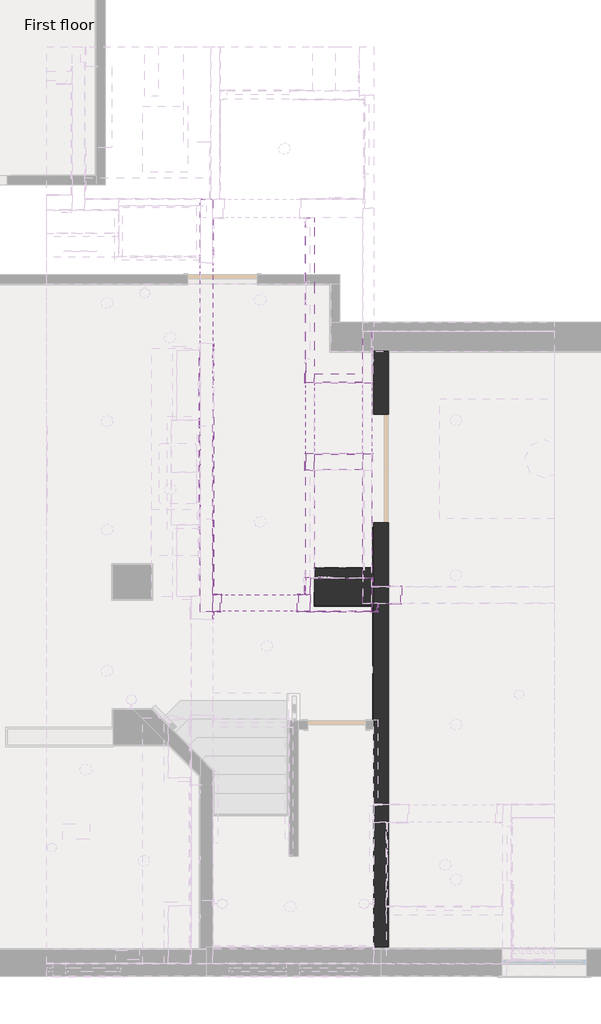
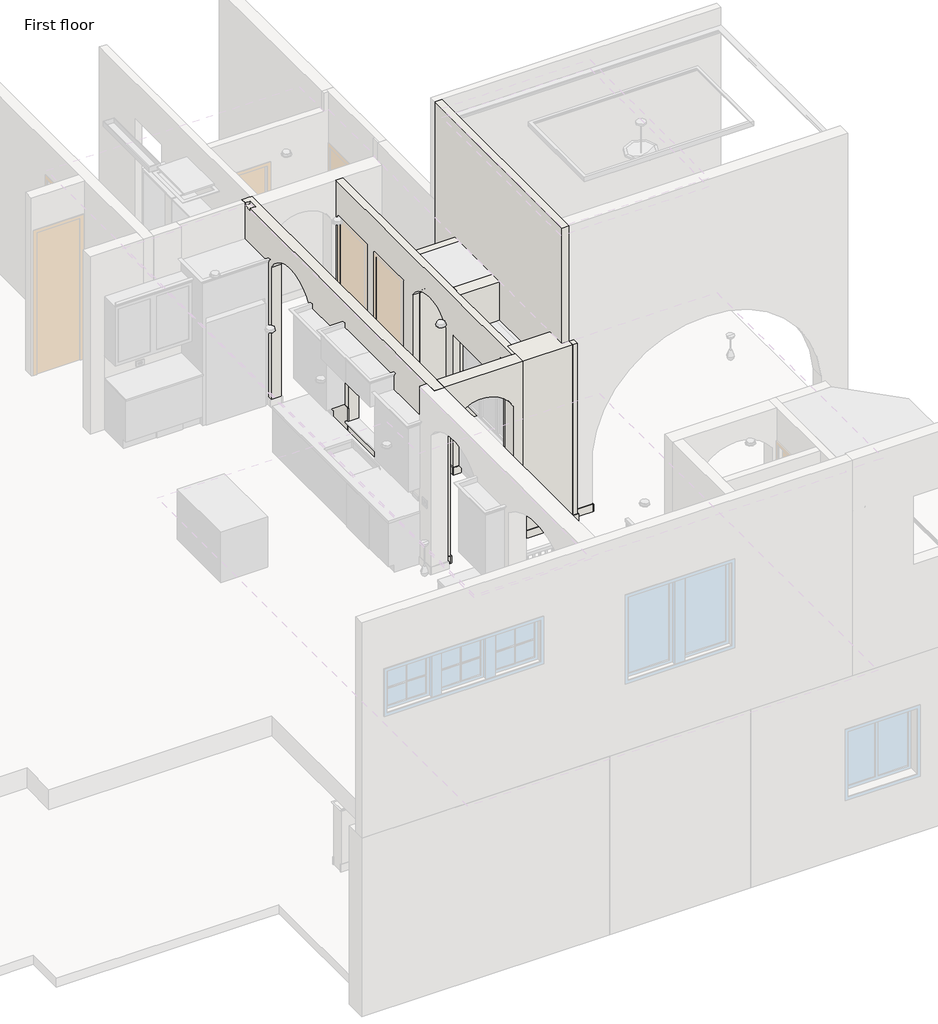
# One storey, part 5 of 14: 38 walls.
"""IFC4 building model written with IfcOpenShell, lengths in millimetres."""

from ifc_helpers import new_model, si_unit, frame, origin, origin_with_axes, place, context, project, spatial, polyline, circle_curve, outline, extrude, faceted_brep, element, save
from ifc_brep_helpers import plane_surface, revolved_surface, advanced_brep

model = new_model("IFC4")

# Units and contexts
model_context = context("Model", 3, world=origin())
ifc_project = project(units=[si_unit("LENGTHUNIT", "METRE", prefix="MILLI")], contexts=[model_context])

# Site, building, storey
site = spatial("IfcSite", under=ifc_project)
building = spatial("IfcBuilding", under=site)
storey = spatial("IfcBuildingStorey", under=building, Name="First floor", Elevation=0.0)

# Walls
placement = place(None, origin())
element("IfcWall", 1, ObjectType="Wall Border_T1", at=placement, inside=storey, context=model_context, shape_type="Brep", body=[
    faceted_brep([(6197.6, 4864.1, 0.0), (6197.6, 4851.4, 0.0), (6197.6, 3365.5, 0.0), (6197.6, 3365.5, 127.0), (6197.6, 4851.4, 127.0), (6197.6, 4864.1, 127.0), (6210.3, 4864.1, 0.0), (6210.3, 4864.1, 127.0), (6210.3, 3365.5, 127.0), (6210.3, 3365.5, 0.0)], [[[0, 1, 2, 3, 4, 5]], [[6, 7, 8, 9]], [[2, 1, 0, 6, 9]], [[5, 4, 3, 8, 7]], [[0, 5, 7, 6]], [[3, 2, 9, 8]]]),
])
element("IfcWall", 2, ObjectType="Wall Border_T1", at=placement, inside=storey, context=model_context, shape_type="Brep", body=[
    faceted_brep([(6197.6, 5892.8, 0.0), (6197.6, 5359.4, 0.0), (6197.6, 5346.7, 0.0), (6197.6, 5346.7, 127.0), (6197.6, 5359.4, 127.0), (6197.6, 5892.8, 127.0), (6210.3, 5892.8, 0.0), (6210.3, 5892.8, 127.0), (6210.3, 5346.7, 127.0), (6210.3, 5346.7, 0.0)], [[[0, 1, 2, 3, 4, 5]], [[6, 7, 8, 9]], [[2, 1, 0, 6, 9]], [[5, 4, 3, 8, 7]], [[0, 5, 7, 6]], [[3, 2, 9, 8]]]),
])
element("IfcWall", 3, ObjectType="Wall Border_T1", at=placement, inside=storey, context=model_context, shape_type="Brep", body=[
    faceted_brep([(4102.1, 8292.9947939, 3251.2), (4102.1, 5003.6947939, 3251.2), (4102.1, 5003.6947939, 3378.2), (4102.1, 8292.9947939, 3378.2), (4114.8, 8292.9947939, 3251.2), (4114.8, 8292.9947939, 3378.2), (4114.8, 5016.3947939, 3378.2), (4114.8, 5003.6947939, 3378.2), (4114.8, 5003.6947939, 3251.2), (4114.8, 5016.3947939, 3251.2)], [[[0, 1, 2, 3]], [[4, 5, 6, 7, 8, 9]], [[1, 0, 4, 9, 8]], [[3, 2, 7, 6, 5]], [[0, 3, 5, 4]], [[2, 1, 8, 7]]]),
])
element("IfcWall", 4, ObjectType="Wall Border_T1", at=placement, inside=storey, context=model_context, shape_type="Brep", body=[
    faceted_brep([(4114.8, 5003.6947939, 3251.2), (4203.7, 5003.6947939, 3251.2), (4216.4, 5003.6947939, 3251.2), (4216.4, 5003.6947939, 3378.2), (4203.7, 5003.6947939, 3378.2), (4114.8, 5003.6947939, 3378.2), (4114.8, 5016.3947939, 3251.2), (4114.8, 5016.3947939, 3378.2), (4216.4, 5016.3947939, 3378.2), (4216.4, 5016.3947939, 3251.2)], [[[0, 1, 2, 3, 4, 5]], [[6, 7, 8, 9]], [[2, 1, 0, 6, 9]], [[5, 4, 3, 8, 7]], [[0, 5, 7, 6]], [[3, 2, 9, 8]]]),
])
element("IfcWall", 5, ObjectType="Wall Border_T1", at=placement, inside=storey, context=model_context, shape_type="Brep", body=[
    faceted_brep([(4203.7, 5003.6947939, 3251.2), (4203.7, 4787.7947939, 3251.2), (4203.7, 4775.0947939, 3251.2), (4203.7, 4775.0947939, 3378.2), (4203.7, 4787.7947939, 3378.2), (4203.7, 5003.6947939, 3378.2), (4216.4, 5003.6947939, 3251.2), (4216.4, 5003.6947939, 3378.2), (4216.4, 4775.0947939, 3378.2), (4216.4, 4775.0947939, 3251.2)], [[[0, 1, 2, 3, 4, 5]], [[6, 7, 8, 9]], [[2, 1, 0, 6, 9]], [[5, 4, 3, 8, 7]], [[0, 5, 7, 6]], [[3, 2, 9, 8]]]),
])
element("IfcWall", 6, ObjectType="Wall Border_T1", at=placement, inside=storey, context=model_context, shape_type="Brep", body=[
    faceted_brep([(4203.7, 4787.7947939, 3251.2), (4102.1, 4787.7947939, 3251.2), (4102.1, 4787.7947939, 3378.2), (4203.7, 4787.7947939, 3378.2), (4203.7, 4775.0947939, 3251.2), (4203.7, 4775.0947939, 3378.2), (4114.8, 4775.0947939, 3378.2), (4102.1, 4775.0947939, 3378.2), (4102.1, 4775.0947939, 3251.2), (4114.8, 4775.0947939, 3251.2)], [[[0, 1, 2, 3]], [[4, 5, 6, 7, 8, 9]], [[1, 0, 4, 9, 8]], [[3, 2, 7, 6, 5]], [[0, 3, 5, 4]], [[2, 1, 8, 7]]]),
])
element("IfcWall", 7, ObjectType="Wall Border_T1", at=placement, inside=storey, context=model_context, shape_type="Brep", body=[
    faceted_brep([(5308.6, 8038.9947939, 3251.2), (5308.6, 7772.2947939, 3251.2), (5308.6, 7772.2947939, 3378.2), (5308.6, 8038.9947939, 3378.2), (5321.3, 8038.9947939, 3251.2), (5321.3, 8038.9947939, 3378.2), (5321.3, 7784.9947939, 3378.2), (5321.3, 7772.2947939, 3378.2), (5321.3, 7772.2947939, 3251.2), (5321.3, 7784.9947939, 3251.2)], [[[0, 1, 2, 3]], [[4, 5, 6, 7, 8, 9]], [[1, 0, 4, 9, 8]], [[3, 2, 7, 6, 5]], [[0, 3, 5, 4]], [[2, 1, 8, 7]]]),
])
element("IfcWall", 8, ObjectType="Wall Border_T1", at=placement, inside=storey, context=model_context, shape_type="Brep", body=[
    faceted_brep([(5321.3, 7772.2947939, 3251.2), (6197.5999991, 7772.2947939, 3251.2), (6197.5999991, 7772.2947939, 3378.2), (5321.3, 7772.2947939, 3378.2), (5321.3, 7784.9947939, 3251.2), (5321.3, 7784.9947939, 3378.2), (6184.8999991, 7784.9947939, 3378.2), (6197.5999991, 7784.9947939, 3378.2), (6197.5999991, 7784.9947939, 3251.2), (6184.8999991, 7784.9947939, 3251.2)], [[[0, 1, 2, 3]], [[4, 5, 6, 7, 8, 9]], [[1, 0, 4, 9, 8]], [[3, 2, 7, 6, 5]], [[0, 3, 5, 4]], [[2, 1, 8, 7]]]),
])
element("IfcWall", 9, ObjectType="Wall Border_T1", at=placement, inside=storey, context=model_context, shape_type="Brep", body=[
    faceted_brep([(5207.0, 5003.6947939, 3251.2), (5219.7, 5003.6947939, 3251.2), (5321.3, 5003.6947939, 3251.2), (5321.3, 5003.6947939, 3378.2), (5219.7, 5003.6947939, 3378.2), (5207.0, 5003.6947939, 3378.2), (5207.0, 5016.3947939, 3251.2), (5207.0, 5016.3947939, 3378.2), (5308.6, 5016.3947939, 3378.2), (5321.3, 5016.3947939, 3378.2), (5321.3, 5016.3947939, 3251.2), (5308.6, 5016.3947939, 3251.2)], [[[0, 1, 2, 3, 4, 5]], [[6, 7, 8, 9, 10, 11]], [[2, 1, 0, 6, 11, 10]], [[5, 4, 3, 9, 8, 7]], [[3, 2, 10, 9]], [[0, 5, 7, 6]]]),
])
element("IfcWall", 10, ObjectType="Wall Border_T1", at=placement, inside=storey, context=model_context, shape_type="Brep", body=[
    faceted_brep([(5321.3, 5016.3947939, 3251.2), (5321.3, 5219.5947939, 3251.2), (5321.3, 5232.2947939, 3251.2), (5321.3, 5232.2947939, 3378.2), (5321.3, 5219.5947939, 3378.2), (5321.3, 5016.3947939, 3378.2), (5308.6, 5016.3947939, 3251.2), (5308.6, 5016.3947939, 3378.2), (5308.6, 5232.2947939, 3378.2), (5308.6, 5232.2947939, 3251.2)], [[[0, 1, 2, 3, 4, 5]], [[6, 7, 8, 9]], [[2, 1, 0, 6, 9]], [[5, 4, 3, 8, 7]], [[0, 5, 7, 6]], [[3, 2, 9, 8]]]),
])
element("IfcWall", 11, ObjectType="Wall Border_T1", at=placement, inside=storey, context=model_context, shape_type="Brep", body=[
    faceted_brep([(5207.0, 5003.6947939, 3251.2), (5207.0, 4775.0947939, 3251.2), (5207.0, 4775.0947939, 3378.2), (5207.0, 5003.6947939, 3378.2), (5219.7, 5003.6947939, 3251.2), (5219.7, 5003.6947939, 3378.2), (5219.7, 4787.7947939, 3378.2), (5219.7, 4775.0947939, 3378.2), (5219.7, 4775.0947939, 3251.2), (5219.7, 4787.7947939, 3251.2)], [[[0, 1, 2, 3]], [[4, 5, 6, 7, 8, 9]], [[1, 0, 4, 9, 8]], [[3, 2, 7, 6, 5]], [[0, 3, 5, 4]], [[2, 1, 8, 7]]]),
])
element("IfcWall", 12, ObjectType="Wall Border_T1", at=placement, inside=storey, context=model_context, shape_type="Brep", body=[
    faceted_brep([(5219.7, 4775.0947939, 3251.2), (6273.7999991, 4775.0947939, 3251.2), (6273.7999991, 4775.0947939, 3378.2), (5219.7, 4775.0947939, 3378.2), (5219.7, 4787.7947939, 3251.2), (5219.7, 4787.7947939, 3378.2), (6261.0999991, 4787.7947939, 3378.2), (6273.7999991, 4787.7947939, 3378.2), (6273.7999991, 4787.7947939, 3251.2), (6261.0999991, 4787.7947939, 3251.2)], [[[0, 1, 2, 3]], [[4, 5, 6, 7, 8, 9]], [[1, 0, 4, 9, 8]], [[3, 2, 7, 6, 5]], [[0, 3, 5, 4]], [[2, 1, 8, 7]]]),
])
element("IfcWall", 13, ObjectType="Wall Border_T1", at=placement, inside=storey, context=model_context, shape_type="Brep", body=[
    faceted_brep([(6273.7999991, 4787.7947939, 3251.2), (6273.7999991, 4876.8001027, 3251.2), (6273.7999991, 4889.5001027, 3251.2), (6273.7999991, 4889.5001027, 3378.2), (6273.7999991, 4876.8001027, 3378.2), (6273.7999991, 4787.7947939, 3378.2), (6261.0999991, 4787.7947939, 3251.2), (6261.0999991, 4787.7947939, 3378.2), (6261.0999991, 4889.5001027, 3378.2), (6261.0999991, 4889.5001027, 3251.2)], [[[0, 1, 2, 3, 4, 5]], [[6, 7, 8, 9]], [[2, 1, 0, 6, 9]], [[5, 4, 3, 8, 7]], [[0, 5, 7, 6]], [[3, 2, 9, 8]]]),
])
element("IfcWall", 14, ObjectType="Wall Border_T1", at=placement, inside=storey, context=model_context, shape_type="SweptSolid", body=[
    extrude(outline(polyline([(6566.0527866, 4876.8001027), (6273.7999991, 4876.8001027), (6273.7999991, 4889.5001027), (6566.0527866, 4889.5001027), (6566.0527866, 4876.8001027)])), frame((0.0, 0.0, 3251.2), z_axis=(0.0, 0.0, 1.0), x_axis=(1.0, 0.0, 0.0)), (0.0, 0.0, 1.0), 127.0),
])
element("IfcWall", 15, ObjectType="Wall Border_T1", at=placement, inside=storey, context=model_context, shape_type="SweptSolid", body=[
    extrude(outline(polyline([(6184.8999991, 5118.1001027), (6566.0527866, 5118.1001027), (6566.0527866, 5105.4001027), (6184.8999991, 5105.4001027), (6184.8999991, 5118.1001027)])), frame((0.0, 0.0, 3251.2), z_axis=(0.0, 0.0, 1.0), x_axis=(1.0, 0.0, 0.0)), (0.0, 0.0, 1.0), 127.0),
])
element("IfcWall", 16, ObjectType="Wall Border_T1", at=placement, inside=storey, context=model_context, shape_type="Brep", body=[
    faceted_brep([(6197.5999991, 5118.1001027, 3251.2), (6197.5999991, 5232.2947939, 3251.2), (6197.5999991, 5232.2947939, 3378.2), (6197.5999991, 5118.1001027, 3378.2), (6184.8999991, 5118.1001027, 3251.2), (6184.8999991, 5118.1001027, 3378.2), (6184.8999991, 5219.5947939, 3378.2), (6184.8999991, 5232.2947939, 3378.2), (6184.8999991, 5232.2947939, 3251.2), (6184.8999991, 5219.5947939, 3251.2)], [[[0, 1, 2, 3]], [[4, 5, 6, 7, 8, 9]], [[1, 0, 4, 9, 8]], [[3, 2, 7, 6, 5]], [[0, 3, 5, 4]], [[2, 1, 8, 7]]]),
])
element("IfcWall", 17, ObjectType="Wall Border_T1", at=placement, inside=storey, context=model_context, shape_type="SweptSolid", body=[
    extrude(outline(polyline([(6019.8, 5232.2947939), (6184.8999991, 5232.2947939), (6184.8999991, 5219.5947939), (6019.8, 5219.5947939), (6019.8, 5232.2947939)])), frame((0.0, 0.0, 3251.2), z_axis=(0.0, 0.0, 1.0), x_axis=(1.0, 0.0, 0.0)), (0.0, 0.0, 1.0), 127.0),
])
element("IfcWall", 18, ObjectType="Wall Border_T1", at=placement, inside=storey, context=model_context, shape_type="Brep", body=[
    faceted_brep([(5448.3, 6641.9947939, 3251.2), (5321.3, 6641.9947939, 3251.2), (5308.6, 6641.9947939, 3251.2), (5308.6, 6641.9947939, 3378.2), (5321.3, 6641.9947939, 3378.2), (5448.3, 6641.9947939, 3378.2), (5448.3, 6629.2947939, 3251.2), (5448.3, 6629.2947939, 3378.2), (5308.6, 6629.2947939, 3378.2), (5308.6, 6629.2947939, 3251.2)], [[[0, 1, 2, 3, 4, 5]], [[6, 7, 8, 9]], [[2, 1, 0, 6, 9]], [[5, 4, 3, 8, 7]], [[0, 5, 7, 6]], [[3, 2, 9, 8]]]),
])
element("IfcWall", 19, ObjectType="Wall Border_T1", at=placement, inside=storey, context=model_context, shape_type="Brep", body=[
    faceted_brep([(5321.3, 6641.9947939, 3251.2), (5321.3, 6845.1947939, 3251.2), (5321.3, 6857.8947939, 3251.2), (5321.3, 6857.8947939, 3378.2), (5321.3, 6845.1947939, 3378.2), (5321.3, 6641.9947939, 3378.2), (5308.6, 6641.9947939, 3251.2), (5308.6, 6641.9947939, 3378.2), (5308.6, 6857.8947939, 3378.2), (5308.6, 6857.8947939, 3251.2)], [[[0, 1, 2, 3, 4, 5]], [[6, 7, 8, 9]], [[2, 1, 0, 6, 9]], [[5, 4, 3, 8, 7]], [[0, 5, 7, 6]], [[3, 2, 9, 8]]]),
])
element("IfcWall", 20, ObjectType="Wall Border_T1", at=placement, inside=storey, context=model_context, shape_type="Brep", body=[
    faceted_brep([(5321.3, 6845.1947939, 3251.2), (6184.8999991, 6845.1947939, 3251.2), (6197.5999991, 6845.1947939, 3251.2), (6197.5999991, 6845.1947939, 3378.2), (6184.8999991, 6845.1947939, 3378.2), (5321.3, 6845.1947939, 3378.2), (5321.3, 6857.8947939, 3251.2), (5321.3, 6857.8947939, 3378.2), (6197.5999991, 6857.8947939, 3378.2), (6197.5999991, 6857.8947939, 3251.2)], [[[0, 1, 2, 3, 4, 5]], [[6, 7, 8, 9]], [[2, 1, 0, 6, 9]], [[5, 4, 3, 8, 7]], [[0, 5, 7, 6]], [[3, 2, 9, 8]]]),
])
element("IfcWall", 21, ObjectType="Wall Border_T1", at=placement, inside=storey, context=model_context, shape_type="SweptSolid", body=[
    extrude(outline(polyline([(5448.3, 5219.5947939), (5321.3, 5219.5947939), (5321.3, 5232.2947939), (5448.3, 5232.2947939), (5448.3, 5219.5947939)])), frame((0.0, 0.0, 3251.2), z_axis=(0.0, 0.0, 1.0), x_axis=(1.0, 0.0, 0.0)), (0.0, 0.0, 1.0), 127.0),
])
element("IfcWall", 22, ObjectType="Wall Border_T1", at=placement, inside=storey, context=model_context, shape_type="SweptSolid", body=[
    extrude(outline(polyline([(8204.0947939, 4165.6), (7188.0947939, 4165.6), (7188.0947939, 4292.6), (7213.4947939, 4292.6), (7213.4947939, 4318.0), (7188.0947939, 4318.0), (7188.0947939, 4546.6), (8204.0947939, 4546.6), (8204.0947939, 4165.6)])), frame((3924.3, 0.0, 0.0), z_axis=(1.0, 0.0, 0.0), x_axis=(0.0, 1.0, 0.0)), (0.0, 0.0, 1.0), 12.7),
])
element("IfcWall", 23, ObjectType="Wall Border_T1", at=placement, inside=storey, context=model_context, shape_type="SweptSolid", body=[
    extrude(outline(polyline([(3924.3, 6019.6947939), (3924.3, 7188.0947939), (3937.0, 7188.0947939), (3937.0, 6019.6947939), (3924.3, 6019.6947939)])), frame((0.0, 0.0, 4165.6), z_axis=(0.0, 0.0, 1.0), x_axis=(1.0, 0.0, 0.0)), (0.0, 0.0, 1.0), 127.0),
])
element("IfcWall", 24, ObjectType="Wall Border_T1", at=placement, inside=storey, context=model_context, shape_type="Brep", body=[
    faceted_brep([(6197.6, 4864.1, 0.0), (5441.95, 4864.1, 0.0), (5429.25, 4864.1, 0.0), (5429.25, 4864.1, 127.0), (5441.95, 4864.1, 127.0), (6197.6, 4864.1, 127.0), (6197.6, 4851.4, 0.0), (6197.6, 4851.4, 127.0), (5429.25, 4851.4, 127.0), (5429.25, 4851.4, 0.0)], [[[0, 1, 2, 3, 4, 5]], [[6, 7, 8, 9]], [[2, 1, 0, 6, 9]], [[5, 4, 3, 8, 7]], [[3, 2, 9, 8]], [[0, 5, 7, 6]]]),
])
element("IfcWall", 25, ObjectType="Wall Border_T1", at=placement, inside=storey, context=model_context, shape_type="Brep", body=[
    faceted_brep([(5441.95, 4864.1, 0.0), (5441.95, 5346.7, 0.0), (5441.95, 5359.4, 0.0), (5441.95, 5359.4, 127.0), (5441.95, 5346.7, 127.0), (5441.95, 4864.1, 127.0), (5429.25, 4864.1, 0.0), (5429.25, 4864.1, 127.0), (5429.25, 5359.4, 127.0), (5429.25, 5359.4, 0.0)], [[[0, 1, 2, 3, 4, 5]], [[6, 7, 8, 9]], [[2, 1, 0, 6, 9]], [[5, 4, 3, 8, 7]], [[0, 5, 7, 6]], [[3, 2, 9, 8]]]),
])
element("IfcWall", 26, ObjectType="Wall Border_T1", at=placement, inside=storey, context=model_context, shape_type="SweptSolid", body=[
    extrude(outline(polyline([(5441.95, 5359.4), (6197.6, 5359.4), (6197.6, 5346.7), (5441.95, 5346.7), (5441.95, 5359.4)])), origin_with_axes(), (0.0, 0.0, 1.0), 127.0),
])
element("IfcWall", 27, ObjectType="Wall Border_T1", at=placement, inside=storey, context=model_context, shape_type="SweptSolid", body=[
    extrude(outline(polyline([(4114.8, 4775.0947939), (4114.8, 4686.1947939), (4102.1, 4686.1947939), (4102.1, 4775.0947939), (4114.8, 4775.0947939)])), frame((0.0, 0.0, 3251.2), z_axis=(0.0, 0.0, 1.0), x_axis=(1.0, 0.0, 0.0)), (0.0, 0.0, 1.0), 127.0),
])
element("IfcWall", 28, ObjectType="Wall Border_T1", at=placement, inside=storey, context=model_context, shape_type="Brep", body=[
    faceted_brep([(6578.7527866, 4876.8001027, 3251.2), (6578.7527866, 5118.1001027, 3251.2), (6578.7527866, 5118.1001027, 3378.2), (6578.7527866, 4876.8001027, 3378.2), (6566.0527866, 4876.8001027, 3251.2), (6566.0527866, 4876.8001027, 3378.2), (6566.0527866, 4889.5001027, 3378.2), (6566.0527866, 5105.4001027, 3378.2), (6566.0527866, 5118.1001027, 3378.2), (6566.0527866, 5118.1001027, 3251.2), (6566.0527866, 5105.4001027, 3251.2), (6566.0527866, 4889.5001027, 3251.2)], [[[0, 1, 2, 3]], [[4, 5, 6, 7, 8, 9, 10, 11]], [[1, 0, 4, 11, 10, 9]], [[2, 1, 9, 8]], [[3, 2, 8, 7, 6, 5]], [[0, 3, 5, 4]]]),
])
element("IfcWall", 29, ObjectType="Wall_1'7\"", at=placement, inside=storey, context=model_context, shape_type="Brep", body=[
    faceted_brep([(5441.95, 4864.1, 0.0), (6210.3, 4864.1, 0.0), (6210.3, 4864.1, 2565.4), (5441.95, 4864.1, 2565.4), (5441.95, 4864.1, 127.0), (5441.95, 5346.7, 0.0), (5441.95, 5346.7, 2565.4), (6210.3, 5346.7, 2565.4), (6210.3, 5346.7, 0.0)], [[[0, 1, 2, 3, 4]], [[5, 6, 7, 8]], [[1, 0, 5, 8]], [[3, 2, 7, 6]], [[2, 1, 8, 7]], [[0, 4, 3, 6, 5]]]),
])
element("IfcWall", 30, ObjectType="Wall_17\"", at=placement, inside=storey, context=model_context, shape_type="Brep", body=[
    faceted_brep([(6184.8999991, 5219.5947939, 6299.2), (6184.8999991, 5219.5947939, 5638.8), (6184.8999991, 5219.5947939, 3251.2), (5378.45, 5219.5947939, 3251.2), (5378.45, 5219.5947939, 5638.8), (5378.45, 5219.5947939, 6299.2), (5435.6, 5219.5947939, 6299.2), (6070.5999991, 5219.5947939, 6299.2), (6184.8999991, 4787.7947939, 3251.2), (6184.8999991, 4787.7947939, 6299.2), (5378.45, 4787.7947939, 6299.2), (5378.45, 4787.7947939, 3251.2), (6184.8999991, 5118.1001027, 3251.2), (6184.8999991, 5105.4001027, 3251.2), (6184.8999991, 4889.5001027, 3251.2), (5378.45, 5003.6947939, 3251.2), (5378.45, 5003.6947939, 6299.2), (6184.8999991, 4889.5001027, 6299.2)], [[[0, 1, 2, 3, 4, 5, 6, 7]], [[8, 9, 10, 11]], [[3, 2, 12, 13, 14, 8, 11, 15]], [[0, 7, 6, 5, 16, 10, 9, 17]], [[3, 15, 11, 10, 16, 5, 4]], [[0, 17, 9, 8, 14, 13, 12, 2, 1]]]),
])
element("IfcWall", 31, ObjectType="Wall_4.5\"", at=placement, inside=storey, context=model_context, shape_type="AdvancedBrep", body=[
    advanced_brep(
    [(5435.6, 9943.9947939, 6299.2), (5435.6, 7899.2947939, 6299.2), (5435.6, 7784.9947939, 6299.2), (5435.6, 6845.1947939, 6299.2), (5435.6, 6641.9947939, 6299.2), (5435.6, 5219.5947939, 6299.2), (5435.6, 5219.5947939, 5638.8), (5435.6, 6641.9947939, 5638.8), (5435.6, 6641.9947939, 3251.2), (5435.6, 6845.1947939, 3251.2), (5435.6, 6845.1947939, 5638.8), (5435.6, 7784.9947939, 5638.8), (5435.6, 7784.9947939, 3251.2), (5435.6, 7899.2947939, 3251.2), (5435.6, 8089.7947939, 3251.2), (5435.6, 8089.7947939, 5689.6), (5435.6, 8800.9947939, 5689.6), (5435.6, 8800.9947939, 3251.2), (5435.6, 9105.7947939, 3251.2), (5435.6, 9105.7947939, 5689.6), (5435.6, 9816.9947939, 5689.6), (5435.6, 9816.9947939, 3251.2), (5435.6, 9943.9947939, 3251.2), (5321.3, 5003.6947939, 6299.2), (5321.3, 9943.9947939, 6299.2), (5321.3, 9943.9947939, 3251.2), (5321.3, 9816.9947939, 3251.2), (5321.3, 9816.9947939, 5689.6), (5321.3, 9105.7947939, 5689.6), (5321.3, 9105.7947939, 3251.2), (5321.3, 8800.9947939, 3251.2), (5321.3, 8800.9947939, 5689.6), (5321.3, 8089.7947939, 5689.6), (5321.3, 8089.7947939, 3251.2), (5321.3, 7784.9947939, 3251.2), (5321.3, 7784.9947939, 5638.8), (5321.3, 6845.1947939, 5638.8), (5321.3, 6845.1947939, 3251.2), (5321.3, 6641.9947939, 3251.2), (5321.3, 6641.9947939, 5638.8), (5321.3, 5219.5947939, 5638.8), (5321.3, 5219.5947939, 3251.2), (5321.3, 5016.3947939, 3251.2), (5321.3, 5003.6947939, 3251.2), (5321.3, 5003.6947939, 3378.2), (5378.45, 5219.5947939, 3251.2), (5378.45, 5003.6947939, 3251.2), (5378.45, 5003.6947939, 6299.2), (5378.45, 5219.5947939, 6299.2), (5378.45, 5219.5947939, 5638.8)],
    [
        (0, 1),
        (1, 2),
        (2, 3),
        (3, 4),
        (4, 5),
        (5, 6),
        (6, 7),
        (7, 8),
        (8, 9),
        (9, 10),
        (10, 11, circle_curve(frame((5435.6, 7315.0947939, 5331.1425), z_axis=(-1.0, 0.0, 0.0), x_axis=(0.0, -1.0, 0.0)), 561.6575)),
        (11, 12),
        (12, 13),
        (13, 14),
        (14, 15),
        (15, 16),
        (16, 17),
        (17, 18),
        (18, 19),
        (19, 20),
        (20, 21),
        (21, 22),
        (22, 0),
        (23, 24),
        (24, 25),
        (25, 26),
        (26, 27),
        (27, 28),
        (28, 29),
        (29, 30),
        (30, 31),
        (31, 32),
        (32, 33),
        (33, 34),
        (34, 35),
        (35, 36, circle_curve(frame((5321.3, 7315.0947939, 5331.1425), z_axis=(1.0, 0.0, 0.0), x_axis=(0.0, -1.0, 0.0)), 561.6575)),
        (36, 37),
        (37, 38),
        (38, 39),
        (39, 40),
        (40, 41),
        (41, 42),
        (42, 43),
        (43, 44),
        (44, 23),
        (25, 22),
        (21, 26),
        (45, 46),
        (46, 43),
        (41, 45),
        (29, 18),
        (17, 30),
        (33, 14),
        (12, 34),
        (37, 9),
        (8, 38),
        (0, 24),
        (23, 47),
        (47, 48),
        (48, 5),
        (48, 49),
        (49, 6),
        (47, 46),
        (45, 49),
        (28, 19),
        (27, 20),
        (32, 15),
        (31, 16),
        (11, 35),
        (36, 10),
        (49, 40),
        (39, 7),
    ],
    [
        plane_surface(frame((5435.6, 5007.0757148, 3251.2), z_axis=(1.0, 0.0, 0.0), x_axis=(0.0, 1.0, 0.0))),
        plane_surface(frame((5321.3, 5007.0757148, 3251.2), z_axis=(-1.0, 0.0, 0.0), x_axis=(0.0, -1.0, 0.0))),
        plane_surface(frame((5435.6, 4895.7447939, 3251.2), z_axis=(0.0, 0.0, -1.0), x_axis=(-1.0, 0.0, 0.0))),
        plane_surface(frame((5435.6, 10064.6447939, 6299.2), z_axis=(0.0, 0.0, 1.0), x_axis=(-1.0, 0.0, 0.0))),
        plane_surface(frame((6070.6, 9943.9947939, 2908.3), z_axis=(0.0, 1.0, 0.0), x_axis=(1.0, 0.0, 0.0))),
        plane_surface(frame((7962.9, 5219.5947939, 3098.8), z_axis=(0.0, -1.0, 0.0), x_axis=(1.0, 0.0, 0.0))),
        plane_surface(frame((5378.45, 5111.6447939, 3098.8), z_axis=(1.0, 0.0, 0.0), x_axis=(0.0, 1.0, 0.0))),
        plane_surface(frame((2794.0, 5003.6947939, 3098.8), z_axis=(0.0, -1.0, 0.0), x_axis=(1.0, 0.0, 0.0))),
        plane_surface(frame((5435.6, 9105.7947939, 3251.2), z_axis=(0.0, 1.0, 0.0), x_axis=(-1.0, 0.0, 0.0))),
        plane_surface(frame((5435.6, 9105.7947939, 5689.6), z_axis=(0.0, 0.0, -1.0), x_axis=(-1.0, 0.0, 0.0))),
        plane_surface(frame((5435.6, 9816.9947939, 5689.6), z_axis=(0.0, -1.0, 0.0), x_axis=(-1.0, 0.0, 0.0))),
        plane_surface(frame((5435.6, 8089.7947939, 3251.2), z_axis=(0.0, 1.0, 0.0), x_axis=(-1.0, 0.0, 0.0))),
        plane_surface(frame((5435.6, 8089.7947939, 5689.6), z_axis=(0.0, 0.0, -1.0), x_axis=(-1.0, 0.0, 0.0))),
        plane_surface(frame((5435.6, 8800.9947939, 5689.6), z_axis=(0.0, -1.0, 0.0), x_axis=(-1.0, 0.0, 0.0))),
        plane_surface(frame((5435.6, 7784.9947939, 3251.2), z_axis=(0.0, -1.0, 0.0), x_axis=(-1.0, 0.0, 0.0))),
        plane_surface(frame((5435.6, 6845.1947939, 5638.8), z_axis=(0.0, 1.0, 0.0), x_axis=(-1.0, 0.0, 0.0))),
        revolved_surface(polyline([(5435.6, 6753.4372938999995, 5331.1425), (5321.3, 6753.4372938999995, 5331.1425)]), (5321.3, 7315.0947939, 5331.1425), (1.0, 0.0, 0.0)),
        plane_surface(frame((5575.3, 6641.9947939, 5638.8), z_axis=(0.0, 0.0, -1.0), x_axis=(-1.0, 0.0, 0.0))),
        plane_surface(frame((5575.3, 5219.5947939, 5638.8), z_axis=(0.0, 1.0, 0.0), x_axis=(-1.0, 0.0, 0.0))),
        plane_surface(frame((5575.3, 6641.9947939, 3251.2), z_axis=(0.0, -1.0, 0.0), x_axis=(-1.0, 0.0, 0.0))),
    ],
    [
        (0, [[1, 2, 3, 4, 5, 6, 7, 8, 9, 10, 11, 12, 13, 14, 15, 16, 17, 18, 19, 20, 21, 22, 23]]),
        (1, [[24, 25, 26, 27, 28, 29, 30, 31, 32, 33, 34, 35, 36, 37, 38, 39, 40, 41, 42, 43, 44, 45]]),
        (2, [[46, -22, 47, -26]]),
        (2, [[48, 49, -43, -42, 50]]),
        (2, [[51, -18, 52, -30]]),
        (2, [[53, -14, -13, 54, -34]]),
        (2, [[55, -9, 56, -38]]),
        (3, [[-5, -4, -3, -2, -1, 57, -24, 58, 59, 60]]),
        (4, [[-23, -46, -25, -57]]),
        (5, [[-60, 61, 62, -6]]),
        (6, [[-59, 63, -48, 64, -61]]),
        (7, [[-45, -44, -49, -63, -58]]),
        (8, [[-19, -51, -29, 65]]),
        (9, [[-20, -65, -28, 66]]),
        (10, [[-21, -66, -27, -47]]),
        (11, [[-15, -53, -33, 67]]),
        (12, [[-16, -67, -32, 68]]),
        (13, [[-17, -68, -31, -52]]),
        (14, [[69, -35, -54, -12]]),
        (15, [[70, -10, -55, -37]]),
        (16, [[-69, -11, -70, -36]]),
        (17, [[71, -40, 72, -7, -62]]),
        (18, [[-71, -64, -50, -41]]),
        (19, [[-72, -39, -56, -8]]),
    ],
),
])
element("IfcWall", 32, ObjectType="Wall_4.5\"", at=placement, inside=storey, context=model_context, shape_type="AdvancedBrep", body=[
    advanced_brep(
    [(6184.8999991, 8458.2, 8280.4), (6184.8999991, 5105.4001027, 8280.4), (6184.8999991, 4889.5001027, 8280.4), (6184.8999991, 4889.5001027, 6299.2), (6184.8999991, 5219.5947939, 6299.2), (6184.8999991, 5219.5947939, 5638.8), (6184.8999991, 6641.9947939, 5638.8), (6184.8999991, 6641.9947939, 3251.2), (6184.8999991, 6845.1947939, 3251.2), (6184.8999991, 6845.1947939, 5638.8), (6184.8999991, 7784.9947939, 5638.8), (6184.8999991, 7784.9947939, 3251.2), (6184.8999991, 8458.2, 3251.2), (6070.5999991, 4889.5001027, 8280.4), (6070.5999991, 8458.2, 8280.4), (6070.5999991, 8458.2, 6604.0), (6070.5999991, 8458.2, 3251.2), (6070.5999991, 7899.2947939, 3251.2), (6070.5999991, 7784.9947939, 3251.2), (6070.5999991, 7784.9947939, 5638.8), (6070.5999991, 6845.1947939, 5638.8), (6070.5999991, 6845.1947939, 3251.2), (6070.5999991, 6641.9947939, 3251.2), (6070.5999991, 6641.9947939, 5638.8), (6070.5999991, 5219.5947939, 5638.8), (6070.5999991, 5219.5947939, 6299.2), (6070.5999991, 4889.5001027, 6299.2)],
    [
        (0, 1),
        (1, 2),
        (2, 3),
        (3, 4),
        (4, 5),
        (5, 6),
        (6, 7),
        (7, 8),
        (8, 9),
        (9, 10, circle_curve(frame((6184.8999991, 7315.0947939, 5331.1425), z_axis=(-1.0, 0.0, 0.0), x_axis=(0.0, -1.0, 0.0)), 561.6575)),
        (10, 11),
        (11, 12),
        (12, 0),
        (13, 14),
        (14, 15),
        (15, 16),
        (16, 17),
        (17, 18),
        (18, 19),
        (19, 20, circle_curve(frame((6070.5999991, 7315.0947939, 5331.1425), z_axis=(1.0, 0.0, 0.0), x_axis=(0.0, -1.0, 0.0)), 561.6575)),
        (20, 21),
        (21, 22),
        (22, 23),
        (23, 24),
        (24, 25),
        (25, 26),
        (26, 13),
        (16, 12),
        (11, 18),
        (7, 22),
        (21, 8),
        (0, 14),
        (13, 2),
        (25, 4),
        (3, 26),
        (24, 5),
        (23, 6),
        (10, 19),
        (20, 9),
    ],
    [
        plane_surface(frame((6184.8999991, 4893.690132, 3251.2), z_axis=(1.0, 0.0, 0.0), x_axis=(0.0, 1.0, 0.0))),
        plane_surface(frame((6070.5999991, 4893.690132, 3251.2), z_axis=(-1.0, 0.0, 0.0), x_axis=(0.0, -1.0, 0.0))),
        plane_surface(frame((6184.8999991, 4997.4501027, 3251.2), z_axis=(0.0, 0.0, -1.0), x_axis=(-1.0, 0.0, 0.0))),
        plane_surface(frame((6184.8999991, 8515.35, 8280.4), z_axis=(0.0, 0.0, 1.0), x_axis=(-1.0, 0.0, 0.0))),
        plane_surface(frame((10654.7717488, 8458.2, 2908.3), z_axis=(0.0, 1.0, 0.0), x_axis=(1.0, 0.0, 0.0))),
        plane_surface(frame((6184.8999991, 4997.4501027, 6299.2), z_axis=(0.0, 0.0, -1.0), x_axis=(1.0, 0.0, 0.0))),
        plane_surface(frame((5923.2069093, 5219.5947939, 3251.2), z_axis=(0.0, -1.0, 0.0), x_axis=(-1.0, 0.0, 0.0))),
        plane_surface(frame((6184.8999991, 4889.5001027, 3251.2), z_axis=(0.0, -1.0, 0.0), x_axis=(1.0, 0.0, 0.0))),
        plane_surface(frame((6070.5999991, 5219.5947939, 5638.8), z_axis=(0.0, 0.0, -1.0), x_axis=(1.0, 0.0, 0.0))),
        plane_surface(frame((6070.5999991, 6641.9947939, 5638.8), z_axis=(0.0, -1.0, 0.0), x_axis=(1.0, 0.0, 0.0))),
        plane_surface(frame((6070.5999991, 7784.9947939, 5638.8), z_axis=(0.0, -1.0, 0.0), x_axis=(1.0, 0.0, 0.0))),
        plane_surface(frame((6070.5999991, 6845.1947939, 3251.2), z_axis=(0.0, 1.0, 0.0), x_axis=(1.0, 0.0, 0.0))),
        revolved_surface(polyline([(6070.5999991, 6753.4372938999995, 5331.1425), (6184.8999991, 6753.4372938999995, 5331.1425)]), (6184.8999991, 7315.0947939, 5331.1425), (-1.0, 0.0, 0.0)),
    ],
    [
        (0, [[1, 2, 3, 4, 5, 6, 7, 8, 9, 10, 11, 12, 13]]),
        (1, [[14, 15, 16, 17, 18, 19, 20, 21, 22, 23, 24, 25, 26, 27]]),
        (2, [[28, -12, 29, -18, -17]]),
        (2, [[30, -22, 31, -8]]),
        (3, [[-2, -1, 32, -14, 33]]),
        (4, [[-13, -28, -16, -15, -32]]),
        (5, [[-26, 34, -4, 35]]),
        (6, [[-34, -25, 36, -5]]),
        (7, [[-33, -27, -35, -3]]),
        (8, [[37, -6, -36, -24]]),
        (9, [[-37, -23, -30, -7]]),
        (10, [[38, -19, -29, -11]]),
        (11, [[39, -9, -31, -21]]),
        (12, [[-38, -10, -39, -20]]),
    ],
),
])
element("IfcWall", 33, ObjectType="Wall_4.5\"", at=placement, inside=storey, context=model_context, shape_type="Brep", body=[
    faceted_brep([(5435.6, 7784.9947939, 3251.2), (6070.5999991, 7784.9947939, 3251.2), (6070.5999991, 7784.9947939, 5638.8), (6070.5999991, 7784.9947939, 6299.2), (5435.6, 7784.9947939, 6299.2), (5435.6, 7784.9947939, 5638.8), (5435.6, 7899.2947939, 3251.2), (5435.6, 7899.2947939, 6299.2), (6070.5999991, 7899.2947939, 6299.2), (6070.5999991, 7899.2947939, 3251.2)], [[[0, 1, 2, 3, 4, 5]], [[6, 7, 8, 9]], [[1, 0, 6, 9]], [[4, 3, 8, 7]], [[0, 5, 4, 7, 6]], [[3, 2, 1, 9, 8]]]),
])
element("IfcWall", 34, ObjectType="Wall_4.5\"", at=placement, inside=storey, context=model_context, shape_type="Brep", body=[
    faceted_brep([(6184.8999991, 4787.7947939, 3251.2), (6261.0999991, 4787.7947939, 3251.2), (6261.0999991, 4787.7947939, 3378.2), (6261.0999991, 4787.7947939, 6299.2), (6184.8999991, 4787.7947939, 6299.2), (6184.8999991, 4889.5001027, 3251.2), (6261.0999991, 4889.5001027, 3251.2), (6261.0999991, 4889.5001027, 6299.2), (6184.8999991, 4889.5001027, 6299.2), (6261.0999991, 4889.5001027, 3378.2)], [[[0, 1, 2, 3, 4]], [[1, 0, 5, 6]], [[4, 3, 7, 8]], [[0, 4, 8, 5]], [[6, 5, 8, 7, 9]], [[3, 2, 1, 6, 9, 7]]]),
])
element("IfcWall", 35, ObjectType="Wall_6.5\"", at=placement, inside=storey, context=model_context, shape_type="AdvancedBrep", body=[
    advanced_brep(
    [(3937.0, 4781.55, 3251.2), (3937.0, 4781.55, 6299.2), (3937.0, 4984.6447939, 6299.2), (3937.0, 9943.9947939, 6299.2), (3937.0, 9943.9947939, 6261.1), (3937.0, 10096.5, 6261.1), (3937.0, 10096.5, 6299.2), (3937.0, 10185.2947939, 6299.2), (3937.0, 10185.2947939, 3251.2), (3937.0, 10096.5, 3251.2), (3937.0, 9359.7947939, 3251.2), (3937.0, 9359.7947939, 5638.8), (3937.0, 8292.9947939, 5638.8), (3937.0, 8292.9947939, 3251.2), (3937.0, 4984.6447939, 3251.2), (3937.0, 7188.0947939, 5054.6), (3937.0, 6019.6947939, 5054.6), (3937.0, 6019.6947939, 4318.0), (3937.0, 5994.2947939, 4318.0), (3937.0, 5994.2947939, 4292.6), (3937.0, 6019.6947939, 4292.6), (3937.0, 7213.4947939, 4292.6), (3937.0, 7213.4947939, 4318.0), (3937.0, 7188.0947939, 4318.0), (4102.1, 4781.55, 6299.2), (4102.1, 4781.55, 3251.2), (4102.1, 4787.7947939, 3251.2), (4102.1, 5003.6947939, 3251.2), (4102.1, 8292.9947939, 3251.2), (4102.1, 8292.9947939, 5638.8), (4102.1, 9359.7947939, 5638.8), (4102.1, 9359.7947939, 3251.2), (4102.1, 9943.9947939, 3251.2), (4102.1, 10185.2947939, 3251.2), (4102.1, 10185.2947939, 6299.2), (4102.1, 9943.9947939, 6299.2), (4102.1, 5003.6947939, 6299.2), (4102.1, 4787.7947939, 6299.2), (4102.1, 6019.6947939, 5054.6), (4102.1, 7188.0947939, 5054.6), (4102.1, 7188.0947939, 4318.0), (4102.1, 7213.4947939, 4318.0), (4102.1, 7213.4947939, 4292.6), (4102.1, 5994.2947939, 4292.6), (4102.1, 5994.2947939, 4318.0), (4102.1, 6019.6947939, 4318.0), (4076.7, 10185.2947939, 3251.2), (4076.7, 10185.2947939, 6299.2), (4019.55, 10096.5, 6299.2), (4019.55, 9943.9947939, 6299.2), (4019.55, 9943.9947939, 6261.1), (4019.55, 10096.5, 6261.1)],
    [
        (0, 1),
        (1, 2),
        (2, 3),
        (3, 4),
        (4, 5),
        (5, 6),
        (6, 7),
        (7, 8),
        (8, 9),
        (9, 10),
        (10, 11),
        (11, 12, circle_curve(frame((3937.0, 8826.3947939, 5324.475), z_axis=(1.0, 0.0, 0.0), x_axis=(0.0, 1.0, 0.0)), 619.125)),
        (12, 13),
        (13, 14),
        (14, 0),
        (15, 16, circle_curve(frame((3937.0, 6603.8947939, 4583.5454545), z_axis=(1.0, 0.0, 0.0), x_axis=(0.0, -1.0, 0.0)), 750.4545455)),
        (16, 17),
        (17, 18),
        (18, 19),
        (19, 20),
        (20, 21),
        (21, 22),
        (22, 23),
        (23, 15),
        (24, 25),
        (25, 26),
        (26, 27),
        (27, 28),
        (28, 29),
        (29, 30, circle_curve(frame((4102.1, 8826.3947939, 5324.475), z_axis=(-1.0, 0.0, 0.0), x_axis=(0.0, 1.0, 0.0)), 619.125)),
        (30, 31),
        (31, 32),
        (32, 33),
        (33, 34),
        (34, 35),
        (35, 36),
        (36, 37),
        (37, 24),
        (38, 39, circle_curve(frame((4102.1, 6603.8947939, 4583.5454545), z_axis=(-1.0, 0.0, 0.0), x_axis=(0.0, -1.0, 0.0)), 750.4545455)),
        (39, 40),
        (40, 41),
        (41, 42),
        (42, 43),
        (43, 44),
        (44, 45),
        (45, 38),
        (25, 0),
        (13, 28),
        (8, 46),
        (46, 33),
        (31, 10),
        (24, 1),
        (34, 47),
        (47, 7),
        (6, 48),
        (48, 49),
        (49, 3),
        (30, 11),
        (29, 12),
        (16, 38),
        (45, 17),
        (39, 15),
        (23, 40),
        (42, 21),
        (19, 43),
        (22, 41),
        (44, 18),
        (50, 51),
        (51, 5),
        (4, 50),
        (49, 50),
        (48, 51),
    ],
    [
        plane_surface(frame((3937.0, 9924.9447939, 3251.2), z_axis=(-1.0, 0.0, 0.0), x_axis=(0.0, -1.0, 0.0))),
        plane_surface(frame((4102.1, 9924.9447939, 3251.2), z_axis=(1.0, 0.0, 0.0), x_axis=(0.0, 1.0, 0.0))),
        plane_surface(frame((3937.0, 10140.95, 3251.2), z_axis=(0.0, 0.0, -1.0), x_axis=(1.0, 0.0, 0.0))),
        plane_surface(frame((3937.0, 4781.55, 3251.2), z_axis=(0.0, -1.0, 0.0), x_axis=(1.0, 0.0, 0.0))),
        plane_surface(frame((3937.0, 4781.55, 6299.2), z_axis=(0.0, 0.0, 1.0), x_axis=(1.0, 0.0, 0.0))),
        plane_surface(frame((4140.2, 9359.7947939, 3251.2), z_axis=(0.0, -1.0, 0.0), x_axis=(-1.0, 0.0, 0.0))),
        revolved_surface(polyline([(4102.1, 9445.5197939, 5324.475), (3937.0, 9445.5197939, 5324.475)]), (3937.0, 8826.3947939, 5324.475), (1.0, 0.0, 0.0)),
        plane_surface(frame((4140.2, 8292.9947939, 5638.8), z_axis=(0.0, 1.0, 0.0), x_axis=(-1.0, 0.0, 0.0))),
        plane_surface(frame((3937.0, 6019.6947939, 4292.6), z_axis=(0.0, 1.0, 0.0), x_axis=(1.0, 0.0, 0.0))),
        plane_surface(frame((3937.0, 7188.0947939, 5054.6), z_axis=(0.0, -1.0, 0.0), x_axis=(1.0, 0.0, 0.0))),
        plane_surface(frame((3937.0, 7188.0947939, 4292.6), z_axis=(0.0, 0.0, 1.0), x_axis=(1.0, 0.0, 0.0))),
        revolved_surface(polyline([(3937.0, 5853.4402484, 4583.5454545), (4102.1, 5853.4402484, 4583.5454545)]), (4102.1, 6603.8947939, 4583.5454545), (-1.0, 0.0, 0.0)),
        plane_surface(frame((4102.1, 7213.4947939, 4318.0), z_axis=(0.0, 0.0, -1.0), x_axis=(-1.0, 0.0, 0.0))),
        plane_surface(frame((4102.1, 7213.4947939, 4318.0), z_axis=(0.0, -1.0, 0.0), x_axis=(0.0, 0.0, -1.0))),
        plane_surface(frame((3898.9, 5994.2947939, 4318.0), z_axis=(0.0, 1.0, 0.0), x_axis=(0.0, 0.0, -1.0))),
        plane_surface(frame((6070.6, 10185.2947939, 2908.3), z_axis=(0.0, 1.0, 0.0), x_axis=(-1.0, 0.0, 0.0))),
        plane_surface(frame((1397.0, 10045.7, 6261.1), z_axis=(0.0, 0.0, 1.0), x_axis=(1.0, 0.0, 0.0))),
        plane_surface(frame((3937.0, 9943.9947939, 6299.2), z_axis=(0.0, 1.0, 0.0), x_axis=(0.0, 0.0, -1.0))),
        plane_surface(frame((4019.55, 9943.9947939, 6299.2), z_axis=(-1.0, 0.0, 0.0), x_axis=(0.0, 0.0, -1.0))),
        plane_surface(frame((4019.55, 10096.5, 6299.2), z_axis=(0.0, -1.0, 0.0), x_axis=(0.0, 0.0, -1.0))),
    ],
    [
        (0, [[1, 2, 3, 4, 5, 6, 7, 8, 9, 10, 11, 12, 13, 14, 15], [16, 17, 18, 19, 20, 21, 22, 23, 24]]),
        (1, [[25, 26, 27, 28, 29, 30, 31, 32, 33, 34, 35, 36, 37, 38], [39, 40, 41, 42, 43, 44, 45, 46]]),
        (2, [[47, -15, -14, 48, -28, -27, -26]]),
        (2, [[-10, -9, 49, 50, -33, -32, 51]]),
        (3, [[-1, -47, -25, 52]]),
        (4, [[-38, -37, -36, -35, 53, 54, -7, 55, 56, 57, -3, -2, -52]]),
        (5, [[58, -11, -51, -31]]),
        (6, [[-58, -30, 59, -12]]),
        (7, [[-59, -29, -48, -13]]),
        (8, [[60, -46, 61, -17]]),
        (9, [[62, -24, 63, -40]]),
        (10, [[64, -21, -20, 65, -43]]),
        (11, [[-60, -16, -62, -39]]),
        (12, [[66, -41, -63, -23]]),
        (12, [[67, -18, -61, -45]]),
        (13, [[-66, -22, -64, -42]]),
        (14, [[-67, -44, -65, -19]]),
        (15, [[-8, -54, -53, -34, -50, -49]]),
        (16, [[68, 69, -5, 70]]),
        (17, [[-70, -4, -57, 71]]),
        (18, [[-68, -71, -56, 72]]),
        (19, [[-72, -55, -6, -69]]),
    ],
),
])
element("IfcWall", 36, ObjectType="Wall_7.5\"", at=placement, inside=storey, context=model_context, shape_type="Brep", body=[
    faceted_brep([(6400.8, 381.0, 0.0), (6400.8, 5943.6, 0.0), (6400.8, 5943.6, 2489.2), (6400.8, 7366.0, 2489.2), (6400.8, 7366.0, 0.0), (6400.8, 8178.8, 0.0), (6400.8, 8191.5, 0.0), (6400.8, 8191.5, 127.0), (6400.8, 8191.5, 2565.4), (6400.8, 381.0, 2565.4), (6210.3, 5943.6, 2489.2), (6210.3, 5943.6, 0.0), (6210.3, 5346.7, 0.0), (6210.3, 4864.1, 0.0), (6210.3, 3352.8, 0.0), (6210.3, 3238.5, 0.0), (6210.3, 381.0, 0.0), (6210.3, 381.0, 2565.4), (6210.3, 3238.5, 2565.4), (6210.3, 3352.8, 2565.4), (6210.3, 4864.1, 2565.4), (6210.3, 5346.7, 2565.4), (6210.3, 8191.5, 2565.4), (6210.3, 8191.5, 0.0), (6210.3, 7366.0, 0.0), (6210.3, 7366.0, 2489.2)], [[[0, 1, 2, 3, 4, 5, 6, 7, 8, 9]], [[10, 11, 12, 13, 14, 15, 16, 17, 18, 19, 20, 21, 22, 23, 24, 25]], [[24, 23, 6, 5, 4]], [[16, 15, 14, 13, 12, 11, 1, 0]], [[9, 8, 22, 21, 20, 19, 18, 17]], [[8, 7, 6, 23, 22]], [[2, 1, 11, 10]], [[3, 2, 10, 25]], [[4, 3, 25, 24]], [[0, 9, 17, 16]]]),
])
element("IfcWall", 37, ObjectType="Wall_8\"", at=placement, inside=storey, context=model_context, shape_type="Brep", body=[
    faceted_brep([(5435.6, 6641.9947939, 3251.2), (6070.5999991, 6641.9947939, 3251.2), (6070.5999991, 6641.9947939, 5638.8), (6070.5999991, 6641.9947939, 6299.2), (5435.6, 6641.9947939, 6299.2), (5435.6, 6641.9947939, 5638.8), (5435.6, 6845.1947939, 3251.2), (5435.6, 6845.1947939, 5638.8), (5435.6, 6845.1947939, 6299.2), (6070.5999991, 6845.1947939, 6299.2), (6070.5999991, 6845.1947939, 5638.8), (6070.5999991, 6845.1947939, 3251.2)], [[[0, 1, 2, 3, 4, 5]], [[6, 7, 8, 9, 10, 11]], [[1, 0, 6, 11]], [[4, 3, 9, 8]], [[0, 5, 4, 8, 7, 6]], [[3, 2, 1, 11, 10, 9]]]),
])
element("IfcWall", 38, ObjectType="Wall_8.5\"", at=placement, inside=storey, context=model_context, shape_type="AdvancedBrep", body=[
    advanced_brep(
    [(4102.1, 5003.6947939, 6299.2), (5321.3, 5003.6947939, 6299.2), (5378.45, 5003.6947939, 6299.2), (5378.45, 5003.6947939, 3251.2), (5321.3, 5003.6947939, 3251.2), (5219.7, 5003.6947939, 3251.2), (5219.7, 5003.6947939, 5588.0), (4203.7, 5003.6947939, 5588.0), (4203.7, 5003.6947939, 3251.2), (4102.1, 5003.6947939, 3251.2), (5378.45, 4787.7947939, 6299.2), (4102.1, 4787.7947939, 6299.2), (4102.1, 4787.7947939, 3251.2), (4203.7, 4787.7947939, 3251.2), (4203.7, 4787.7947939, 5588.0), (5219.7, 4787.7947939, 5588.0), (5219.7, 4787.7947939, 3251.2), (5378.45, 4787.7947939, 3251.2)],
    [
        (0, 1),
        (1, 2),
        (2, 3),
        (3, 4),
        (4, 5),
        (5, 6),
        (6, 7, circle_curve(frame((4711.7, 5003.6947939, 5317.0666667), z_axis=(0.0, -1.0, 0.0), x_axis=(0.0, 0.0, -1.0)), 575.7333333)),
        (7, 8),
        (8, 9),
        (9, 0),
        (10, 11),
        (11, 12),
        (12, 13),
        (13, 14),
        (14, 15, circle_curve(frame((4711.7, 4787.7947939, 5317.0666667), z_axis=(0.0, 1.0, 0.0), x_axis=(0.0, 0.0, -1.0)), 575.7333333)),
        (15, 16),
        (16, 17),
        (17, 10),
        (3, 17),
        (16, 5),
        (12, 9),
        (8, 13),
        (0, 11),
        (10, 2),
        (14, 7),
        (6, 15),
    ],
    [
        plane_surface(frame((5424.4480044, 5003.6947939, 3251.2), z_axis=(0.0, 1.0, 0.0), x_axis=(-1.0, 0.0, 0.0))),
        plane_surface(frame((5424.4480044, 4787.7947939, 3251.2), z_axis=(0.0, -1.0, 0.0), x_axis=(1.0, 0.0, 0.0))),
        plane_surface(frame((5378.45, 5003.6947939, 3251.2), z_axis=(0.0, 0.0, -1.0), x_axis=(0.0, -1.0, 0.0))),
        plane_surface(frame((3962.4, 5003.6947939, 6299.2), z_axis=(0.0, 0.0, 1.0), x_axis=(0.0, -1.0, 0.0))),
        plane_surface(frame((5378.45, 5003.6947939, 6299.2), z_axis=(1.0, 0.0, 0.0), x_axis=(0.0, -1.0, 0.0))),
        plane_surface(frame((4102.1, 5003.6947939, 3251.2), z_axis=(-1.0, 0.0, 0.0), x_axis=(0.0, 1.0, 0.0))),
        revolved_surface(polyline([(4711.7, 5003.6947939, 4741.3333334), (4711.7, 4787.7947939, 4741.3333334)]), (4711.7, 4787.7947939, 5317.0666667), (0.0, 1.0, 0.0)),
        plane_surface(frame((5219.7, 5041.7947939, 5588.0), z_axis=(-1.0, 0.0, 0.0), x_axis=(0.0, -1.0, 0.0))),
        plane_surface(frame((4203.7, 5041.7947939, 3251.2), z_axis=(1.0, 0.0, 0.0), x_axis=(0.0, -1.0, 0.0))),
    ],
    [
        (0, [[1, 2, 3, 4, 5, 6, 7, 8, 9, 10]]),
        (1, [[11, 12, 13, 14, 15, 16, 17, 18]]),
        (2, [[19, -17, 20, -5, -4]]),
        (2, [[21, -9, 22, -13]]),
        (3, [[-2, -1, 23, -11, 24]]),
        (4, [[-3, -24, -18, -19]]),
        (5, [[-10, -21, -12, -23]]),
        (6, [[25, -7, 26, -15]]),
        (7, [[-26, -6, -20, -16]]),
        (8, [[-25, -14, -22, -8]]),
    ],
),
])

save(model, "model.ifc")
